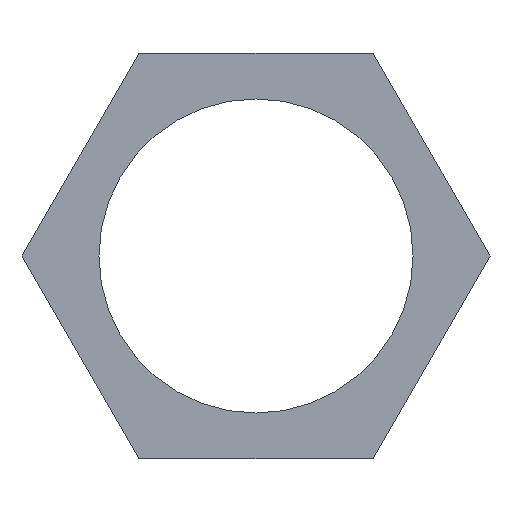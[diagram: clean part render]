
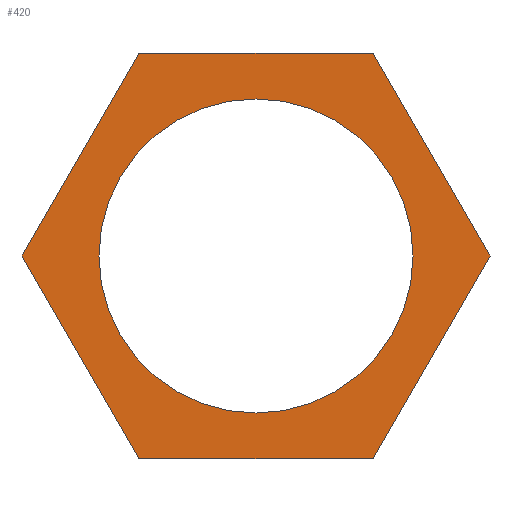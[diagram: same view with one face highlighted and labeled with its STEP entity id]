
A CAD part, front view. The second image highlights one B-rep face of the part: STEP entity #420.
In plain terms, the highlighted planar face has unit normal (0, -1, 0).
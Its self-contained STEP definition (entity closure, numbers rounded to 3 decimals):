
#42 = VERTEX_POINT('',#43);
#43 = CARTESIAN_POINT('',(30.619,26.2,39.));
#50 = PLANE('',#51);
#51 = AXIS2_PLACEMENT_3D('',#52,#53,#54);
#52 = CARTESIAN_POINT('',(30.619,28.2,39.));
#53 = DIRECTION('',(-0.866,-0.,-0.5));
#54 = DIRECTION('',(-0.5,0.,0.866));
#62 = PLANE('',#63);
#63 = AXIS2_PLACEMENT_3D('',#64,#65,#66);
#64 = CARTESIAN_POINT('',(28.309,28.2,35.));
#65 = DIRECTION('',(-0.866,0.,0.5));
#66 = DIRECTION('',(0.5,0.,0.866));
#74 = EDGE_CURVE('',#42,#75,#77,.T.);
#75 = VERTEX_POINT('',#76);
#76 = CARTESIAN_POINT('',(28.309,26.2,43.));
#77 = SURFACE_CURVE('',#78,(#82,#89),.PCURVE_S1.);
#78 = LINE('',#79,#80);
#79 = CARTESIAN_POINT('',(30.619,26.2,39.));
#80 = VECTOR('',#81,1.);
#81 = DIRECTION('',(-0.5,0.,0.866));
#82 = PCURVE('',#50,#83);
#83 = DEFINITIONAL_REPRESENTATION('',(#84),#88);
#84 = LINE('',#85,#86);
#85 = CARTESIAN_POINT('',(0.,-2.));
#86 = VECTOR('',#87,1.);
#87 = DIRECTION('',(1.,0.));
#88 = ( GEOMETRIC_REPRESENTATION_CONTEXT(2) 
PARAMETRIC_REPRESENTATION_CONTEXT() REPRESENTATION_CONTEXT('2D SPACE',''
  ) );
#89 = PCURVE('',#90,#95);
#90 = PLANE('',#91);
#91 = AXIS2_PLACEMENT_3D('',#92,#93,#94);
#92 = CARTESIAN_POINT('',(26.,26.2,39.));
#93 = DIRECTION('',(-0.,-1.,-0.));
#94 = DIRECTION('',(0.,0.,-1.));
#95 = DEFINITIONAL_REPRESENTATION('',(#96),#100);
#96 = LINE('',#97,#98);
#97 = CARTESIAN_POINT('',(0.,4.619));
#98 = VECTOR('',#99,1.);
#99 = DIRECTION('',(-0.866,-0.5));
#100 = ( GEOMETRIC_REPRESENTATION_CONTEXT(2) 
PARAMETRIC_REPRESENTATION_CONTEXT() REPRESENTATION_CONTEXT('2D SPACE',''
  ) );
#118 = PLANE('',#119);
#119 = AXIS2_PLACEMENT_3D('',#120,#121,#122);
#120 = CARTESIAN_POINT('',(28.309,28.2,43.));
#121 = DIRECTION('',(0.,-0.,-1.));
#122 = DIRECTION('',(-1.,0.,0.));
#162 = VERTEX_POINT('',#163);
#163 = CARTESIAN_POINT('',(28.309,26.2,35.));
#177 = PLANE('',#178);
#178 = AXIS2_PLACEMENT_3D('',#179,#180,#181);
#179 = CARTESIAN_POINT('',(23.691,28.2,35.));
#180 = DIRECTION('',(0.,0.,1.));
#181 = DIRECTION('',(1.,0.,0.));
#189 = EDGE_CURVE('',#162,#42,#190,.T.);
#190 = SURFACE_CURVE('',#191,(#195,#202),.PCURVE_S1.);
#191 = LINE('',#192,#193);
#192 = CARTESIAN_POINT('',(28.309,26.2,35.));
#193 = VECTOR('',#194,1.);
#194 = DIRECTION('',(0.5,0.,0.866));
#195 = PCURVE('',#62,#196);
#196 = DEFINITIONAL_REPRESENTATION('',(#197),#201);
#197 = LINE('',#198,#199);
#198 = CARTESIAN_POINT('',(0.,-2.));
#199 = VECTOR('',#200,1.);
#200 = DIRECTION('',(1.,0.));
#201 = ( GEOMETRIC_REPRESENTATION_CONTEXT(2) 
PARAMETRIC_REPRESENTATION_CONTEXT() REPRESENTATION_CONTEXT('2D SPACE',''
  ) );
#202 = PCURVE('',#90,#203);
#203 = DEFINITIONAL_REPRESENTATION('',(#204),#208);
#204 = LINE('',#205,#206);
#205 = CARTESIAN_POINT('',(4.,2.309));
#206 = VECTOR('',#207,1.);
#207 = DIRECTION('',(-0.866,0.5));
#208 = ( GEOMETRIC_REPRESENTATION_CONTEXT(2) 
PARAMETRIC_REPRESENTATION_CONTEXT() REPRESENTATION_CONTEXT('2D SPACE',''
  ) );
#236 = EDGE_CURVE('',#75,#237,#239,.T.);
#237 = VERTEX_POINT('',#238);
#238 = CARTESIAN_POINT('',(23.691,26.2,43.));
#239 = SURFACE_CURVE('',#240,(#244,#251),.PCURVE_S1.);
#240 = LINE('',#241,#242);
#241 = CARTESIAN_POINT('',(28.309,26.2,43.));
#242 = VECTOR('',#243,1.);
#243 = DIRECTION('',(-1.,0.,0.));
#244 = PCURVE('',#118,#245);
#245 = DEFINITIONAL_REPRESENTATION('',(#246),#250);
#246 = LINE('',#247,#248);
#247 = CARTESIAN_POINT('',(0.,-2.));
#248 = VECTOR('',#249,1.);
#249 = DIRECTION('',(1.,0.));
#250 = ( GEOMETRIC_REPRESENTATION_CONTEXT(2) 
PARAMETRIC_REPRESENTATION_CONTEXT() REPRESENTATION_CONTEXT('2D SPACE',''
  ) );
#251 = PCURVE('',#90,#252);
#252 = DEFINITIONAL_REPRESENTATION('',(#253),#257);
#253 = LINE('',#254,#255);
#254 = CARTESIAN_POINT('',(-4.,2.309));
#255 = VECTOR('',#256,1.);
#256 = DIRECTION('',(0.,-1.));
#257 = ( GEOMETRIC_REPRESENTATION_CONTEXT(2) 
PARAMETRIC_REPRESENTATION_CONTEXT() REPRESENTATION_CONTEXT('2D SPACE',''
  ) );
#275 = PLANE('',#276);
#276 = AXIS2_PLACEMENT_3D('',#277,#278,#279);
#277 = CARTESIAN_POINT('',(23.691,28.2,43.));
#278 = DIRECTION('',(0.866,0.,-0.5));
#279 = DIRECTION('',(-0.5,-0.,-0.866));
#352 = PLANE('',#353);
#353 = AXIS2_PLACEMENT_3D('',#354,#355,#356);
#354 = CARTESIAN_POINT('',(21.381,28.2,39.));
#355 = DIRECTION('',(0.866,0.,0.5));
#356 = DIRECTION('',(0.5,0.,-0.866));
#409 = CYLINDRICAL_SURFACE('',#410,3.1);
#410 = AXIS2_PLACEMENT_3D('',#411,#412,#413);
#411 = CARTESIAN_POINT('',(26.,26.,39.));
#412 = DIRECTION('',(0.,1.,0.));
#413 = DIRECTION('',(0.,-0.,1.));
#420 = ADVANCED_FACE('',(#421,#493),#90,.T.);
#421 = FACE_BOUND('',#422,.T.);
#422 = EDGE_LOOP('',(#423,#424,#425,#448,#471,#492));
#423 = ORIENTED_EDGE('',*,*,#74,.T.);
#424 = ORIENTED_EDGE('',*,*,#236,.T.);
#425 = ORIENTED_EDGE('',*,*,#426,.T.);
#426 = EDGE_CURVE('',#237,#427,#429,.T.);
#427 = VERTEX_POINT('',#428);
#428 = CARTESIAN_POINT('',(21.381,26.2,39.));
#429 = SURFACE_CURVE('',#430,(#434,#441),.PCURVE_S1.);
#430 = LINE('',#431,#432);
#431 = CARTESIAN_POINT('',(23.691,26.2,43.));
#432 = VECTOR('',#433,1.);
#433 = DIRECTION('',(-0.5,-0.,-0.866));
#434 = PCURVE('',#90,#435);
#435 = DEFINITIONAL_REPRESENTATION('',(#436),#440);
#436 = LINE('',#437,#438);
#437 = CARTESIAN_POINT('',(-4.,-2.309));
#438 = VECTOR('',#439,1.);
#439 = DIRECTION('',(0.866,-0.5));
#440 = ( GEOMETRIC_REPRESENTATION_CONTEXT(2) 
PARAMETRIC_REPRESENTATION_CONTEXT() REPRESENTATION_CONTEXT('2D SPACE',''
  ) );
#441 = PCURVE('',#275,#442);
#442 = DEFINITIONAL_REPRESENTATION('',(#443),#447);
#443 = LINE('',#444,#445);
#444 = CARTESIAN_POINT('',(0.,-2.));
#445 = VECTOR('',#446,1.);
#446 = DIRECTION('',(1.,0.));
#447 = ( GEOMETRIC_REPRESENTATION_CONTEXT(2) 
PARAMETRIC_REPRESENTATION_CONTEXT() REPRESENTATION_CONTEXT('2D SPACE',''
  ) );
#448 = ORIENTED_EDGE('',*,*,#449,.T.);
#449 = EDGE_CURVE('',#427,#450,#452,.T.);
#450 = VERTEX_POINT('',#451);
#451 = CARTESIAN_POINT('',(23.691,26.2,35.));
#452 = SURFACE_CURVE('',#453,(#457,#464),.PCURVE_S1.);
#453 = LINE('',#454,#455);
#454 = CARTESIAN_POINT('',(21.381,26.2,39.));
#455 = VECTOR('',#456,1.);
#456 = DIRECTION('',(0.5,0.,-0.866));
#457 = PCURVE('',#90,#458);
#458 = DEFINITIONAL_REPRESENTATION('',(#459),#463);
#459 = LINE('',#460,#461);
#460 = CARTESIAN_POINT('',(0.,-4.619));
#461 = VECTOR('',#462,1.);
#462 = DIRECTION('',(0.866,0.5));
#463 = ( GEOMETRIC_REPRESENTATION_CONTEXT(2) 
PARAMETRIC_REPRESENTATION_CONTEXT() REPRESENTATION_CONTEXT('2D SPACE',''
  ) );
#464 = PCURVE('',#352,#465);
#465 = DEFINITIONAL_REPRESENTATION('',(#466),#470);
#466 = LINE('',#467,#468);
#467 = CARTESIAN_POINT('',(0.,-2.));
#468 = VECTOR('',#469,1.);
#469 = DIRECTION('',(1.,0.));
#470 = ( GEOMETRIC_REPRESENTATION_CONTEXT(2) 
PARAMETRIC_REPRESENTATION_CONTEXT() REPRESENTATION_CONTEXT('2D SPACE',''
  ) );
#471 = ORIENTED_EDGE('',*,*,#472,.T.);
#472 = EDGE_CURVE('',#450,#162,#473,.T.);
#473 = SURFACE_CURVE('',#474,(#478,#485),.PCURVE_S1.);
#474 = LINE('',#475,#476);
#475 = CARTESIAN_POINT('',(23.691,26.2,35.));
#476 = VECTOR('',#477,1.);
#477 = DIRECTION('',(1.,0.,0.));
#478 = PCURVE('',#90,#479);
#479 = DEFINITIONAL_REPRESENTATION('',(#480),#484);
#480 = LINE('',#481,#482);
#481 = CARTESIAN_POINT('',(4.,-2.309));
#482 = VECTOR('',#483,1.);
#483 = DIRECTION('',(0.,1.));
#484 = ( GEOMETRIC_REPRESENTATION_CONTEXT(2) 
PARAMETRIC_REPRESENTATION_CONTEXT() REPRESENTATION_CONTEXT('2D SPACE',''
  ) );
#485 = PCURVE('',#177,#486);
#486 = DEFINITIONAL_REPRESENTATION('',(#487),#491);
#487 = LINE('',#488,#489);
#488 = CARTESIAN_POINT('',(0.,-2.));
#489 = VECTOR('',#490,1.);
#490 = DIRECTION('',(1.,0.));
#491 = ( GEOMETRIC_REPRESENTATION_CONTEXT(2) 
PARAMETRIC_REPRESENTATION_CONTEXT() REPRESENTATION_CONTEXT('2D SPACE',''
  ) );
#492 = ORIENTED_EDGE('',*,*,#189,.T.);
#493 = FACE_BOUND('',#494,.T.);
#494 = EDGE_LOOP('',(#495));
#495 = ORIENTED_EDGE('',*,*,#496,.T.);
#496 = EDGE_CURVE('',#497,#497,#499,.T.);
#497 = VERTEX_POINT('',#498);
#498 = CARTESIAN_POINT('',(26.,26.2,42.1));
#499 = SURFACE_CURVE('',#500,(#505,#516),.PCURVE_S1.);
#500 = CIRCLE('',#501,3.1);
#501 = AXIS2_PLACEMENT_3D('',#502,#503,#504);
#502 = CARTESIAN_POINT('',(26.,26.2,39.));
#503 = DIRECTION('',(0.,1.,0.));
#504 = DIRECTION('',(0.,-0.,1.));
#505 = PCURVE('',#90,#506);
#506 = DEFINITIONAL_REPRESENTATION('',(#507),#515);
#507 = ( BOUNDED_CURVE() B_SPLINE_CURVE(2,(#508,#509,#510,#511,#512,#513
,#514),.UNSPECIFIED.,.T.,.F.) B_SPLINE_CURVE_WITH_KNOTS((1,2,2,2,2,1),(
    -2.094,0.,2.094,4.189,6.283,
8.378),.UNSPECIFIED.) CURVE() GEOMETRIC_REPRESENTATION_ITEM() 
RATIONAL_B_SPLINE_CURVE((1.,0.5,1.,0.5,1.,0.5,1.)) REPRESENTATION_ITEM(
  '') );
#508 = CARTESIAN_POINT('',(-3.1,0.));
#509 = CARTESIAN_POINT('',(-3.1,5.369));
#510 = CARTESIAN_POINT('',(1.55,2.685));
#511 = CARTESIAN_POINT('',(6.2,0.));
#512 = CARTESIAN_POINT('',(1.55,-2.685));
#513 = CARTESIAN_POINT('',(-3.1,-5.369));
#514 = CARTESIAN_POINT('',(-3.1,0.));
#515 = ( GEOMETRIC_REPRESENTATION_CONTEXT(2) 
PARAMETRIC_REPRESENTATION_CONTEXT() REPRESENTATION_CONTEXT('2D SPACE',''
  ) );
#516 = PCURVE('',#409,#517);
#517 = DEFINITIONAL_REPRESENTATION('',(#518),#522);
#518 = LINE('',#519,#520);
#519 = CARTESIAN_POINT('',(0.,0.2));
#520 = VECTOR('',#521,1.);
#521 = DIRECTION('',(1.,0.));
#522 = ( GEOMETRIC_REPRESENTATION_CONTEXT(2) 
PARAMETRIC_REPRESENTATION_CONTEXT() REPRESENTATION_CONTEXT('2D SPACE',''
  ) );
